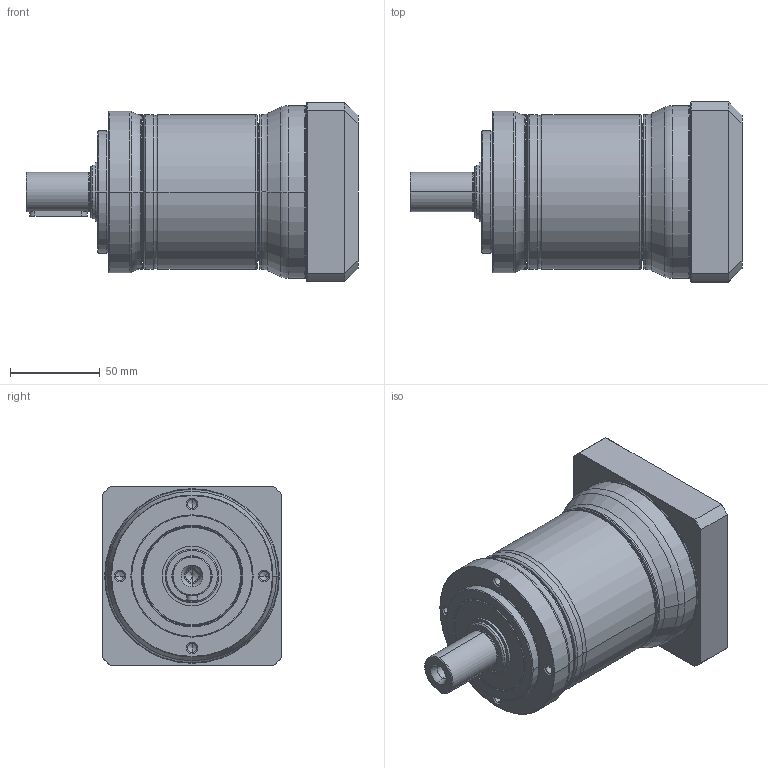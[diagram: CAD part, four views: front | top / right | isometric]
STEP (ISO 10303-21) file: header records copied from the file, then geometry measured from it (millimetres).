
FILE_DESCRIPTION((''),'2;1');
FILE_NAME('PE2-090_2ST_24-P0411500101_ASM','2017-06-02T',('d01943'),(''),'PRO/ENGINEER BY PARAMETRIC TECHNOLOGY CORPORATION, 2008410','PRO/ENGINEER BY PARAMETRIC TECHNOLOGY CORPORATION, 2008410','');
FILE_SCHEMA(('CONFIG_CONTROL_DESIGN'));
Length unit declared in the file: millimetre
Products named in the file (9): P1323310001; P0251300001; P1324300201; P0350301001; P0941302001; P0503500008; P0411500101; P1702500001; PE2-090_2ST_24-P0411500101_ASM
Assembly tree (8 placements, depth 2):
  PE2-090_2ST_24-P0411500101_ASM
    P1323310001
    P0251300001
    P1324300201
    P0350301001
    P0941302001
    P0503500008
    P0411500101
    P1702500001
Bounding box: 184.5 x 100 x 100 mm (x, y, z)
Volume: 644692 mm3; surface area: 155311.5 mm2
Topology: 8 solids, 8 shells, 472 faces, 1033 edges, 592 vertices
Faces by surface type: cone 138, cylinder 138, torus 102, plane 78, bspline 16
Entity records: 17503 total; most frequent: CARTESIAN_POINT 6920, DIRECTION 2417, ORIENTED_EDGE 2002, AXIS2_PLACEMENT_3D 1040, EDGE_CURVE 1001, VERTEX_POINT 592, CIRCLE 567, EDGE_LOOP 535
